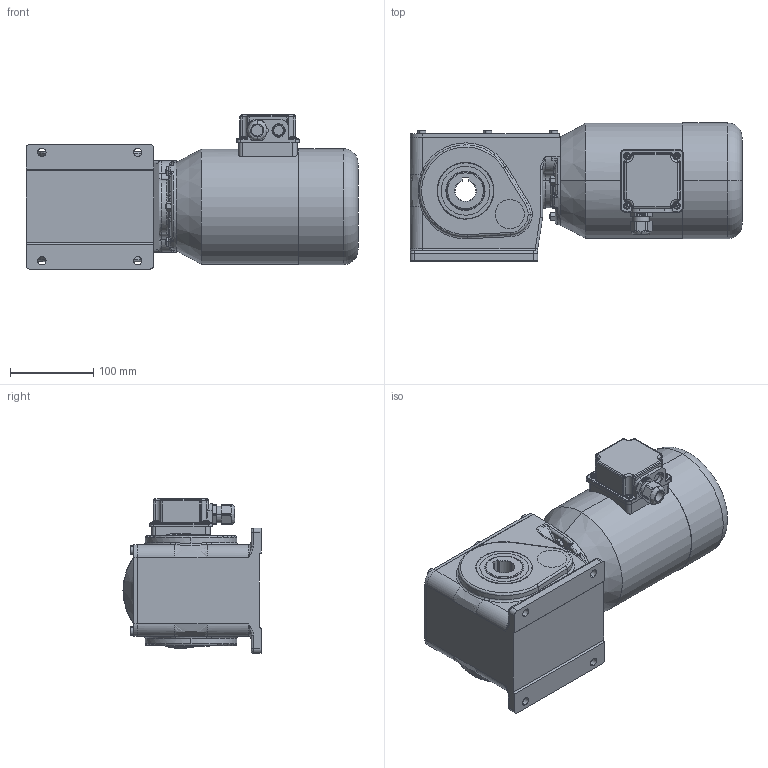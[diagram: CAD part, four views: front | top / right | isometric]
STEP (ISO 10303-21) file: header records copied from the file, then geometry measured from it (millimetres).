
FILE_DESCRIPTION (( 'STEP AP214' ), '1' );
FILE_NAME ('SN19H_250W_1400Upm_Drehstrom_Motor_B.STEP', '2022-08-10T07:49:28', ( '' ), ( '' ), 'SwSTEP 2.0', 'SolidWorks 2021', '' );
FILE_SCHEMA (( 'AUTOMOTIVE_DESIGN' ));
Length unit declared in the file: millimetre
Products named in the file (12): socket set screw cup point_iso_ISO 4029 - M6 x 25-C; SN19H_3D-Export_Welle 1; hex nut style 1 gradeab_iso_ISO - 4032 - M6 - D - C; 19-D-002; 19-G-002_3D-Export; 19H-W-001_3D-Export; SN19H_250W_1400Upm_Drehstrom_Motor_B; K_35x8.0; 09-M-230 I 250W_1400Upm; DIN6912 - M6x16; NBR_WDR_45x68x10; socket head cap screw_iso_ISO 4762 M6 x 25 - 25C
Assembly tree (22 placements, depth 3):
  SN19H_250W_1400Upm_Drehstrom_Motor_B
    SN19H_3D-Export_Welle 1
      19-G-002_3D-Export
      19-D-002
      19H-W-001_3D-Export
      K_35x8.0  x2
      NBR_WDR_45x68x10  x2
      DIN6912 - M6x16  x6
      socket head cap screw_iso_ISO 4762 M6 x 25 - 25C
      socket set screw cup point_iso_ISO 4029 - M6 x 25-C  x3
      hex nut style 1 gradeab_iso_ISO - 4032 - M6 - D - C  x3
    09-M-230 I 250W_1400Upm
Bounding box: 398 x 165.5 x 185 mm (x, y, z)
Volume: 6251974.9 mm3; surface area: 433115.2 mm2
Topology: 23 solids, 23 shells, 1197 faces, 2934 edges, 1800 vertices
Faces by surface type: cylinder 369, plane 344, cone 208, torus 166, bspline 86, sphere 24
Entity records: 32921 total; most frequent: CARTESIAN_POINT 9027, DIRECTION 5034, ORIENTED_EDGE 4806, EDGE_CURVE 2403, AXIS2_PLACEMENT_3D 2058, VERTEX_POINT 1511, CIRCLE 1146, EDGE_LOOP 1064
